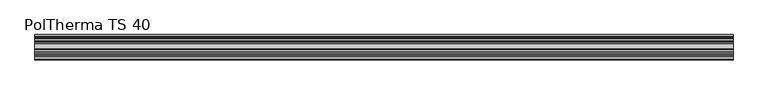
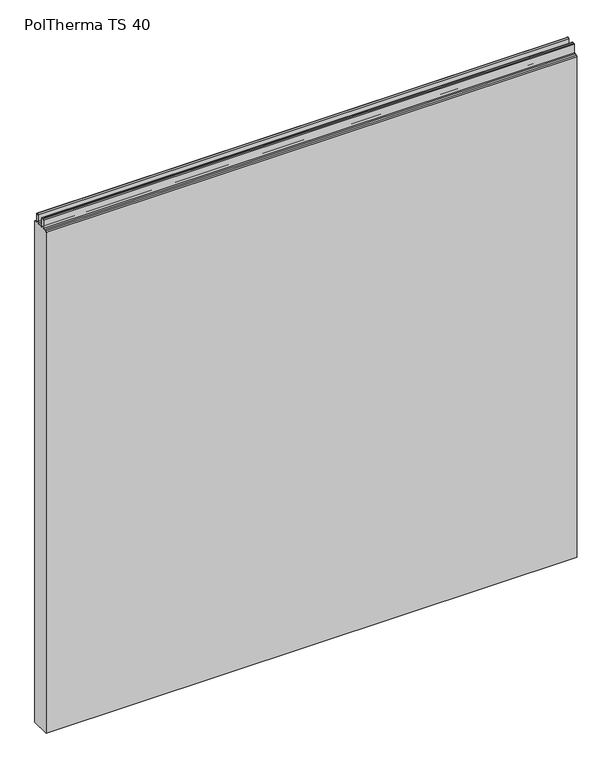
"""IFC4 building model written with IfcOpenShell, lengths in millimetres: plate geometry, Europanels_Poltherma TS_Hz : PolTherma TS 40."""

import ifcopenshell
import ifcopenshell.guid

model = None  # the IFC model being written
_history = None  # IfcOwnerHistory: only IFC2X3 demands one
_inside = {}  # id of a spatial element -> (the spatial element, [elements in it])
_under = {}  # id of a project, library or spatial element -> (it, [spatial elements below it])
_declared = {}  # id of a project -> (the project, [libraries it declares])
_typed = {}  # id of a type object -> (the type object, [elements of that type])
_made_of = {}  # id of a material, layer set ... -> (it, [elements and type objects made of it])


def new_model(schema):
    """Start an empty IFC model of exactly this schema.

    Asked for "IFC4X3", IfcOpenShell would pick the latest addendum, in which some entities
    have other attributes; the version numbers below select the first issue.
    IFC2X3 requires an IfcOwnerHistory on every rooted entity: one is made here for all.
    """
    global model, _history
    if schema == "IFC4X3":
        model = ifcopenshell.file(schema_version=(4, 3, 0, 0))
    else:
        model = ifcopenshell.file(schema=schema)
    _inside.clear()
    _under.clear()
    _declared.clear()
    _typed.clear()
    _made_of.clear()
    _history = None
    if model.schema == "IFC2X3":
        org = make("IfcOrganization", Name="unknown")
        user = make(
            "IfcPersonAndOrganization",
            ThePerson=make("IfcPerson", FamilyName="unknown"),
            TheOrganization=org,
        )
        app = make(
            "IfcApplication",
            ApplicationDeveloper=org,
            Version="unknown",
            ApplicationFullName="unknown",
            ApplicationIdentifier="unknown",
        )
        _history = make(
            "IfcOwnerHistory",
            OwningUser=user,
            OwningApplication=app,
            ChangeAction="ADDED",
            CreationDate=0,
        )
    return model


def make(cls, **values):
    """One entity of the class cls with the attributes given. An attribute that is None is left unset."""
    return model.create_entity(
        cls, **{name: value for name, value in values.items() if value is not None}
    )


def rooted(cls, **values):
    """An entity with a GlobalId (a new one), such as an element, a storey or a relation."""
    return make(cls, GlobalId=ifcopenshell.guid.new(), OwnerHistory=_history, **values)


def si_unit(unit_type, name, prefix=None):
    """IfcSIUnit, for example si_unit("LENGTHUNIT", "METRE", prefix="MILLI")."""
    return make("IfcSIUnit", UnitType=unit_type, Prefix=prefix, Name=name)


def assignment(units):
    """IfcUnitAssignment: the units of a project."""
    return None if units is None else make("IfcUnitAssignment", Units=units)


def point(xyz):
    """IfcCartesianPoint."""
    return None if xyz is None else make("IfcCartesianPoint", Coordinates=xyz)


def direction(xyz):
    """IfcDirection."""
    return None if xyz is None else make("IfcDirection", DirectionRatios=xyz)


def frame(location, z_axis=None, x_axis=None):
    """IfcAxis2Placement3D, a coordinate frame: its origin and axes. An axis left out is left unset."""
    return make(
        "IfcAxis2Placement3D",
        Location=point(location),
        Axis=direction(z_axis),
        RefDirection=direction(x_axis),
    )


def frame_2d(location, x_axis=None):
    """IfcAxis2Placement2D, a coordinate frame in the plane: its origin and x axis."""
    return make(
        "IfcAxis2Placement2D", Location=point(location), RefDirection=direction(x_axis)
    )


def origin():
    """The frame at (0, 0, 0) with its axes left unset."""
    return frame((0.0, 0.0, 0.0))


def place(relative_to, where):
    """IfcLocalPlacement: puts the frame where relative to a parent placement (None: the world)."""
    return make(
        "IfcLocalPlacement", PlacementRelTo=relative_to, RelativePlacement=where
    )


def context(
    kind, dimensions, precision=None, world=None, true_north=None, identifier=None
):
    """IfcGeometricRepresentationContext, for example the 3D "Model" context."""
    return make(
        "IfcGeometricRepresentationContext",
        ContextIdentifier=identifier,
        ContextType=kind,
        CoordinateSpaceDimension=dimensions,
        Precision=precision,
        WorldCoordinateSystem=world,
        TrueNorth=true_north,
    )


def project(units=None, contexts=None):
    """IfcProject with its units and contexts."""
    return rooted(
        "IfcProject",
        Name="project",
        RepresentationContexts=contexts,
        UnitsInContext=assignment(units),
    )


def spatial(cls, under=None, at=None, **own):
    """A site, building, storey or space (cls), placed at a placement, below another one or the project."""
    s = rooted(cls, ObjectPlacement=at, **own)
    if under is not None:
        _under.setdefault(under.id(), (under, []))[1].append(s)
    return s


def polyline(points):
    """IfcPolyline through the points."""
    return make("IfcPolyline", Points=[point(p) for p in points])


def circle_curve(where, radius):
    """IfcCircle in the frame where."""
    return make("IfcCircle", Position=where, Radius=radius)


def trimmed(basis, trim1, trim2, sense, master):
    """IfcTrimmedCurve: the piece of a basis curve between two trims."""
    return make(
        "IfcTrimmedCurve",
        BasisCurve=basis,
        Trim1=trim1,
        Trim2=trim2,
        SenseAgreement=sense,
        MasterRepresentation=master,
    )


def segment(curve, same_sense, transition):
    """IfcCompositeCurveSegment."""
    return make(
        "IfcCompositeCurveSegment",
        Transition=transition,
        SameSense=same_sense,
        ParentCurve=curve,
    )


def composite_curve(segments, self_intersect=None):
    """IfcCompositeCurve: segments joined end to end."""
    return make("IfcCompositeCurve", Segments=segments, SelfIntersect=self_intersect)


def outline(outer, holes=None, kind="AREA"):
    """IfcArbitraryClosedProfileDef: a profile drawn as a closed curve; with holes, ...WithVoids."""
    if holes is None:
        return make("IfcArbitraryClosedProfileDef", ProfileType=kind, OuterCurve=outer)
    return make(
        "IfcArbitraryProfileDefWithVoids",
        ProfileType=kind,
        OuterCurve=outer,
        InnerCurves=holes,
    )


def extrude(swept, where, along, depth):
    """IfcExtrudedAreaSolid: the profile swept, set in the frame where, extruded along a direction by depth."""
    return make(
        "IfcExtrudedAreaSolid",
        SweptArea=swept,
        Position=where,
        ExtrudedDirection=direction(along),
        Depth=depth,
    )


def shape(context_of_items, identifier, shape_type, items):
    """IfcShapeRepresentation: the items that make up one representation, for example the "Body"."""
    return make(
        "IfcShapeRepresentation",
        ContextOfItems=context_of_items,
        RepresentationIdentifier=identifier,
        RepresentationType=shape_type,
        Items=items,
    )


def source(mapping_origin, context_of_items, identifier, shape_type, items):
    """IfcRepresentationMap: a shape defined once, which mapped items show again and again."""
    return make(
        "IfcRepresentationMap",
        MappingOrigin=mapping_origin,
        MappedRepresentation=shape(context_of_items, identifier, shape_type, items),
    )


def transform(
    local_origin,
    x_axis=None,
    y_axis=None,
    z_axis=None,
    scale=None,
    scale2=None,
    scale3=None,
    uniform=True,
):
    """IfcCartesianTransformationOperator3D, or its non-uniform kind. x_axis, y_axis, z_axis: its Axis1, 2, 3."""
    if uniform:
        return make(
            "IfcCartesianTransformationOperator3D",
            Axis1=direction(x_axis),
            Axis2=direction(y_axis),
            LocalOrigin=point(local_origin),
            Scale=scale,
            Axis3=direction(z_axis),
        )
    return make(
        "IfcCartesianTransformationOperator3DnonUniform",
        Axis1=direction(x_axis),
        Axis2=direction(y_axis),
        LocalOrigin=point(local_origin),
        Scale=scale,
        Axis3=direction(z_axis),
        Scale2=scale2,
        Scale3=scale3,
    )


def mapped(mapping_source, mapping_target):
    """IfcMappedItem: shows the shape of a source again, moved by a transform."""
    return make(
        "IfcMappedItem", MappingSource=mapping_source, MappingTarget=mapping_target
    )


def made_of(thing, what):
    """Note that an element or type object is made of a material, layer set ...; save() writes the relation."""
    if what is not None:
        _made_of.setdefault(what.id(), (what, []))[1].append(thing)
    return thing


def element(
    cls,
    number,
    at=None,
    inside=None,
    cuts=None,
    type_object=None,
    material=None,
    context=None,
    identifier="Body",
    shape_type=None,
    held_by="IfcProductDefinitionShape",
    body=None,
    shapes=None,
    **own,
):
    """One element of the class cls, such as IfcWall. Its Tag is "e" and its number.

    at: its placement. inside: the storey or other place that contains it. cuts: it is an
    opening in that element (IfcRelVoidsElement). A single representation is given by context,
    identifier, shape_type and body (its items); several are given by shapes. held_by: the class
    of the entity that holds the representations. save() writes the other relations.
    """
    e = rooted(cls, Tag="e%d" % number, ObjectPlacement=at, **own)
    if body is not None:
        shapes = [shape(context, identifier, shape_type, body)]
    if shapes is not None:
        e.Representation = make(held_by, Representations=shapes)
    if inside is not None:
        _inside.setdefault(inside.id(), (inside, []))[1].append(e)
    if cuts is not None:
        rooted(
            "IfcRelVoidsElement", RelatingBuildingElement=cuts, RelatedOpeningElement=e
        )
    if type_object is not None:
        _typed.setdefault(type_object.id(), (type_object, []))[1].append(e)
    return made_of(e, material)


def aggregate(whole, parts):
    """IfcRelAggregates: a whole, such as a stair, and the parts it consists of."""
    return rooted("IfcRelAggregates", RelatingObject=whole, RelatedObjects=parts)


def save(model, path):
    """Write the relations noted so far, then the file.

    IfcRelAggregates (storeys below a building ...), IfcRelContainedInSpatialStructure (elements
    in a storey), IfcRelDefinesByType, IfcRelAssociatesMaterial and IfcRelDeclares: one each for
    every whole, place, type object, material and project.
    """
    for whole, parts in _under.values():
        aggregate(whole, parts)
    for where, things in _inside.values():
        rooted(
            "IfcRelContainedInSpatialStructure",
            RelatedElements=things,
            RelatingStructure=where,
        )
    for kind, things in _typed.values():
        rooted("IfcRelDefinesByType", RelatedObjects=things, RelatingType=kind)
    for what, things in _made_of.values():
        rooted("IfcRelAssociatesMaterial", RelatedObjects=things, RelatingMaterial=what)
    for by, libraries in _declared.values():
        rooted("IfcRelDeclares", RelatingContext=by, RelatedDefinitions=libraries)
    model.write(path)


def poltherma_ts_40_bbba443b(model_context):
    return source(origin(), model_context, "Body", "SweptSolid", [
        extrude(outline(composite_curve([segment(trimmed(circle_curve(frame_2d((-9.1874198, 1117.5011047)), 2.0), [point((-11.1836192, 1117.624345))], [point((-9.1874198, 1119.5011047))], False, "CARTESIAN"), True, "CONTINUOUS"), segment(polyline([(-9.1874198, 1119.5011047), (-6.4480373, 1119.5011047)]), True, "CONTINUOUS"), segment(trimmed(circle_curve(frame_2d((-6.4480373, 1117.5011047)), 2.0), [point((-6.4480373, 1119.5011047))], [point((-4.4498501, 1117.5862394))], False, "CARTESIAN"), True, "CONTINUOUS"), segment(polyline([(-4.4498501, 1117.5862394), (-3.7101357, 1100.2244834)]), True, "CONTINUOUS"), segment(trimmed(circle_curve(frame_2d((-1.9117672, 1100.3011047)), 1.8), [point((-3.7101357, 1100.2244834))], [point((-1.9117672, 1098.5011047))], True, "CARTESIAN"), True, "CONTINUOUS"), segment(polyline([(-1.9117672, 1098.5011047), (6.113894, 1098.5011047)]), True, "CONTINUOUS"), segment(trimmed(circle_curve(frame_2d((6.113894, 1100.5011047)), 2.0), [point((6.113894, 1098.5011047))], [point((8.1120505, 1100.4152514))], True, "CARTESIAN"), True, "CONTINUOUS"), segment(polyline([(8.1120505, 1100.4152514), (8.8693289, 1117.5889644)]), True, "CONTINUOUS"), segment(trimmed(circle_curve(frame_2d((10.8984404, 1117.5046542)), 2.0308623), [point((8.8693289, 1117.5889644))], [point((11.1407625, 1119.5210078))], False, "CARTESIAN"), True, "CONTINUOUS"), segment(trimmed(circle_curve(frame_2d((11.1407625, 1117.4973942)), 2.0236135), [point((11.1407625, 1119.5210078))], [point((13.1604251, 1117.6237846))], False, "CARTESIAN"), True, "CONTINUOUS"), segment(polyline([(13.1604251, 1117.6237846), (14.2596673, 1100.3765791)]), True, "CONTINUOUS"), segment(trimmed(circle_curve(frame_2d((16.2557869, 1100.5011047)), 2.0), [point((14.2596673, 1100.3765791))], [point((16.2557869, 1098.5011047))], True, "CARTESIAN"), True, "CONTINUOUS"), segment(polyline([(16.2557869, 1098.5011047), (18.0, 1098.5011047)]), True, "CONTINUOUS"), segment(trimmed(circle_curve(frame_2d((18.0, 1096.5011047)), 2.0), [point((18.0, 1098.5011047))], [point((20.0, 1096.5011047))], False, "CARTESIAN"), True, "CONTINUOUS"), segment(polyline([(20.0, 1096.5011047), (20.0, 0.0), (-20.0, 0.0), (-20.0, 1096.5011047)]), True, "CONTINUOUS"), segment(trimmed(circle_curve(frame_2d((-18.0, 1096.5011047)), 2.0), [point((-20.0, 1096.5011047))], [point((-18.0, 1098.5011047))], False, "CARTESIAN"), True, "CONTINUOUS"), segment(polyline([(-18.0, 1098.5011047), (-14.244573, 1098.5011047)]), True, "CONTINUOUS"), segment(trimmed(circle_curve(frame_2d((-14.244573, 1100.5011047)), 2.0), [point((-14.244573, 1098.5011047))], [point((-12.2483736, 1100.3778643))], True, "CARTESIAN"), True, "CONTINUOUS"), segment(polyline([(-12.2483736, 1100.3778643), (-11.1836192, 1117.624345)]), True, "CONTINUOUS")], self_intersect=False)), frame((-550.0, 0.0, 0.0), z_axis=(1.0, 0.0, 0.0), x_axis=(0.0, 1.0, 0.0)), (0.0, 0.0, 1.0), 1100.0),
    ])


if __name__ == "__main__":
    model = new_model("IFC4")
    model_context = context("Model", 3, world=origin())
    ifc_project = project(units=[si_unit("LENGTHUNIT", "METRE", prefix="MILLI")], contexts=[model_context])
    site = spatial("IfcSite", under=ifc_project)
    building = spatial("IfcBuilding", under=site)
    placement = place(None, origin())
    poltherma_ts_40_shape = poltherma_ts_40_bbba443b(model_context)
    element("IfcPlate", 1, ObjectType="Europanels_Poltherma TS_Hz : PolTherma TS 40", at=placement, inside=building, context=model_context, shape_type="MappedRepresentation", body=[
        mapped(poltherma_ts_40_shape, transform((0.0, 0.0, 0.0), x_axis=(1.0, 0.0, 0.0), y_axis=(0.0, 1.0, 0.0), z_axis=(0.0, 0.0, 1.0))),
    ])
    save(model, "model.ifc")
